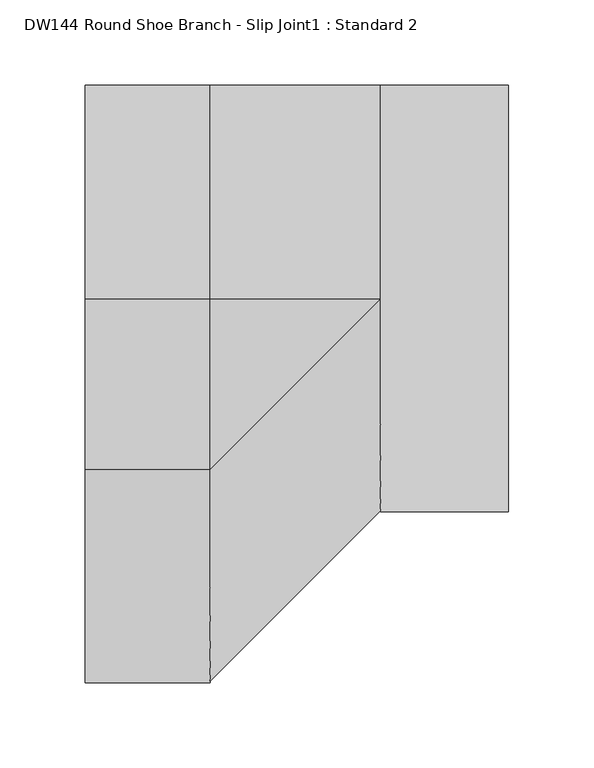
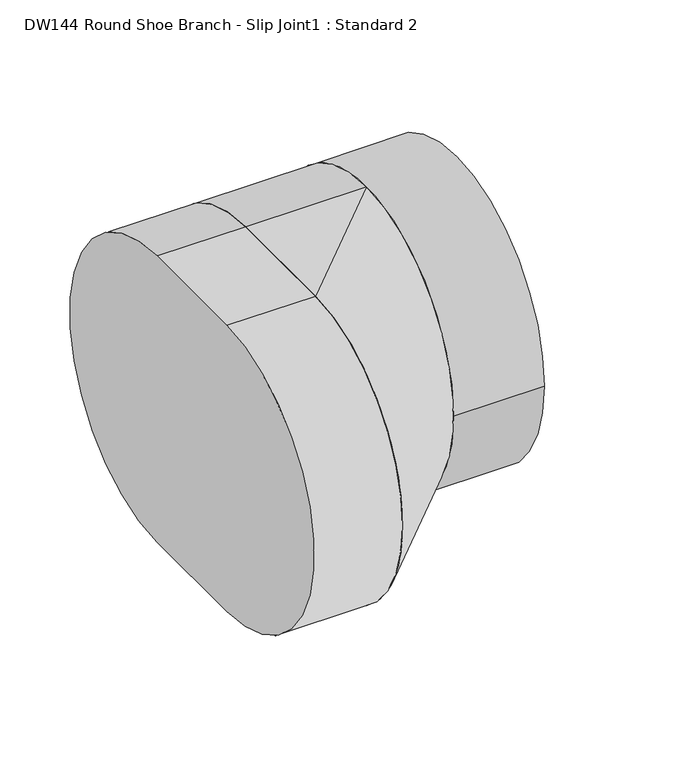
"""IFC4 building model written with IfcOpenShell, lengths in millimetres: duct fitting geometry, DW144 Round Shoe Branch - Slip Joint1 : Standard 2."""

from ifc_helpers import new_model, si_unit, point, frame, frame_2d, origin, origin_2d, place, context, project, spatial, polyline, circle_curve, trimmed, segment, composite_curve, outline, extrude, source, transform, mapped, element, save
from ifc_brep_helpers import plane_surface, cylinder_surface, extruded_surface, advanced_brep


def dw144_round_shoe_branch_slip_joint1_standard_2_67b64720(model_context):
    return source(origin(), model_context, "Body", "SolidModel", [
        extrude(outline(composite_curve([segment(trimmed(circle_curve(origin_2d(), 125.0), [point((-125.0, 0.0))], [point((125.0, 0.0))], False, "CARTESIAN"), True, "CONTINUOUS"), segment(trimmed(circle_curve(origin_2d(), 125.0), [point((125.0, 0.0))], [point((-125.0, 0.0))], False, "CARTESIAN"), True, "CONTINUOUS")], self_intersect=False)), frame((100.0, 0.0, 0.0), z_axis=(1.0, 0.0, 0.0), x_axis=(0.0, 1.0, 0.0)), (0.0, 0.0, 1.0), 75.0),
        advanced_brep(
        [(100.0, 0.0, -125.0), (100.0, 0.0, 125.0), (0.0, 0.0, -125.0), (0.0, -100.0, -125.0), (0.0, -100.0, 125.0), (0.0, 0.0, 125.0)],
        [
            (0, 1, circle_curve(frame((100.0, 0.0, 0.0), z_axis=(1.0, 0.0, 0.0), x_axis=(0.0, 1.0, 0.0)), 125.0)),
            (1, 0, circle_curve(frame((100.0, 0.0, 0.0), z_axis=(1.0, 0.0, 0.0), x_axis=(0.0, 1.0, 0.0)), 125.0)),
            (2, 3),
            (3, 4, circle_curve(frame((0.0, -100.0, 0.0), z_axis=(-1.0, 0.0, 0.0), x_axis=(0.0, 1.0, 0.0)), 125.0)),
            (4, 5),
            (5, 2, circle_curve(frame((0.0, 0.0, 0.0), z_axis=(-1.0, 0.0, 0.0), x_axis=(0.0, 1.0, 0.0)), 125.0)),
            (5, 1),
            (0, 2),
            (4, 1),
            (3, 0),
        ],
        [
            plane_surface(frame((100.0, 0.0, 0.0), z_axis=(1.0, 0.0, 0.0), x_axis=(0.0, 1.0, 0.0))),
            plane_surface(frame((0.0, -50.0, 0.0), z_axis=(-1.0, 0.0, 0.0), x_axis=(0.0, 1.0, 0.0))),
            cylinder_surface(frame((0.0, 0.0, 0.0), z_axis=(1.0, 0.0, 0.0), x_axis=(0.0, 1.0, 0.0)), 125.0),
            plane_surface(frame((0.0, -50.0, 125.0), z_axis=(0.0, 0.0, 1.0), x_axis=(0.0, -1.0, 0.0))),
            extruded_surface(trimmed(circle_curve(frame((0.0, -100.0, 0.0), z_axis=(1.0, 0.0, 0.0), x_axis=(0.0, 1.0, 0.0)), 125.0), [point((0.0, -100.0, 125.0))], [point((0.0, -100.0, -125.0))], True, "CARTESIAN"), (100.0, 100.0, 0.0), 141.4213562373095),
            plane_surface(frame((0.0, -50.0, -125.0), z_axis=(0.0, 0.0, -1.0), x_axis=(0.0, 1.0, 0.0))),
        ],
        [
            (0, [[1, 2]]),
            (1, [[3, 4, 5, 6]]),
            (2, [[-6, 7, -1, 8]]),
            (3, [[-5, 9, -7]]),
            (4, [[-4, 10, -2, -9]]),
            (5, [[-3, -8, -10]]),
        ],
    ),
        extrude(outline(composite_curve([segment(polyline([(0.0, -125.0), (-100.0, -125.0)]), True, "CONTINUOUS"), segment(trimmed(circle_curve(frame_2d((-100.0, 0.0)), 125.0), [point((-100.0, -125.0))], [point((-100.0, 125.0))], False, "CARTESIAN"), True, "CONTINUOUS"), segment(polyline([(-100.0, 125.0), (0.0, 125.0)]), True, "CONTINUOUS"), segment(trimmed(circle_curve(origin_2d(), 125.0), [point((0.0, 125.0))], [point((0.0, -125.0))], False, "CARTESIAN"), True, "CONTINUOUS")], self_intersect=False)), frame((-73.1803802, 0.0, 0.0), z_axis=(1.0, 0.0, 0.0), x_axis=(0.0, 1.0, 0.0)), (0.0, 0.0, 1.0), 73.1803802),
    ])


if __name__ == "__main__":
    model = new_model("IFC4")
    model_context = context("Model", 3, world=origin())
    ifc_project = project(units=[si_unit("LENGTHUNIT", "METRE", prefix="MILLI")], contexts=[model_context])
    site = spatial("IfcSite", under=ifc_project)
    building = spatial("IfcBuilding", under=site)
    placement = place(None, origin())
    dw144_round_shoe_branch_slip_joint1_standard_2_shape = dw144_round_shoe_branch_slip_joint1_standard_2_67b64720(model_context)
    element("IfcDuctFitting", 1, ObjectType="DW144 Round Shoe Branch - Slip Joint1 : Standard 2", at=placement, inside=building, context=model_context, shape_type="MappedRepresentation", body=[
        mapped(dw144_round_shoe_branch_slip_joint1_standard_2_shape, transform((0.0, 0.0, 0.0), x_axis=(1.0, 0.0, 0.0), y_axis=(0.0, 1.0, 0.0), z_axis=(0.0, 0.0, 1.0))),
    ])
    save(model, "model.ifc")
